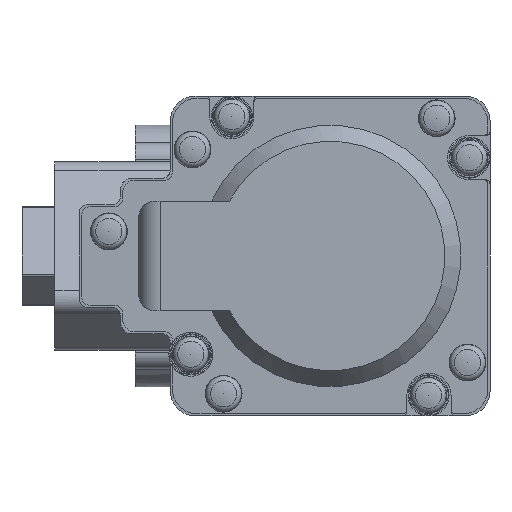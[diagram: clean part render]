
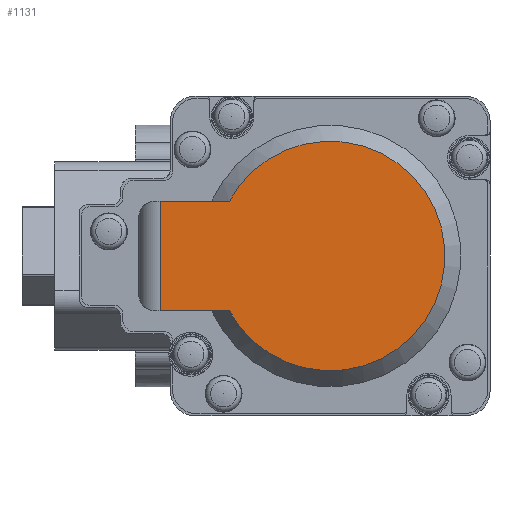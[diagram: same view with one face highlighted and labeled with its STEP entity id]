
A CAD part, left-side view. The second image highlights one B-rep face of the part: STEP entity #1131.
In plain terms, the highlighted planar face has unit normal (-1, 0, 0).
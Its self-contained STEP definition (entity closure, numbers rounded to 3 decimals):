
#1131 = ADVANCED_FACE( '', ( #2650 ), #2651, .F. );
#2650 = FACE_OUTER_BOUND( '', #4729, .T. );
#2651 = PLANE( '', #4730 );
#4729 = EDGE_LOOP( '', ( #8200, #8201, #8202, #8203 ) );
#4730 = AXIS2_PLACEMENT_3D( '', #8204, #8205, #8206 );
#8200 = ORIENTED_EDGE( '', *, *, #12321, .F. );
#8201 = ORIENTED_EDGE( '', *, *, #12322, .F. );
#8202 = ORIENTED_EDGE( '', *, *, #12323, .F. );
#8203 = ORIENTED_EDGE( '', *, *, #12292, .T. );
#8204 = CARTESIAN_POINT( '', ( -95., 20.75, 15. ) );
#8205 = DIRECTION( '', ( 1., 0., 0. ) );
#8206 = DIRECTION( '', ( 0., 0., -1. ) );
#12292 = EDGE_CURVE( '', #15061, #15062, #15063, .T. );
#12321 = EDGE_CURVE( '', #15099, #15062, #15100, .T. );
#12322 = EDGE_CURVE( '', #15101, #15099, #15102, .T. );
#12323 = EDGE_CURVE( '', #15061, #15101, #15103, .T. );
#15061 = VERTEX_POINT( '', #18713 );
#15062 = VERTEX_POINT( '', #18714 );
#15063 = LINE( '', #18715, #18716 );
#15099 = VERTEX_POINT( '', #18782 );
#15100 = LINE( '', #18783, #18784 );
#15101 = VERTEX_POINT( '', #18785 );
#15102 = CIRCLE( '', #18786, 14. );
#15103 = LINE( '', #18787, #18788 );
#18713 = CARTESIAN_POINT( '', ( -95., 20.75, 6.7 ) );
#18714 = CARTESIAN_POINT( '', ( -95., 20.75, -6.7 ) );
#18715 = CARTESIAN_POINT( '', ( -95., 20.75, 15. ) );
#18716 = VECTOR( '', #21639, 1000. );
#18782 = CARTESIAN_POINT( '', ( -95., 12.293, -6.7 ) );
#18783 = CARTESIAN_POINT( '', ( -95., 11.065, -6.7 ) );
#18784 = VECTOR( '', #21665, 1000. );
#18785 = CARTESIAN_POINT( '', ( -95., 12.293, 6.7 ) );
#18786 = AXIS2_PLACEMENT_3D( '', #21666, #21667, #21668 );
#18787 = CARTESIAN_POINT( '', ( -95., 21.35, 6.7 ) );
#18788 = VECTOR( '', #21669, 1000. );
#21639 = DIRECTION( '', ( 0., 0., -1. ) );
#21665 = DIRECTION( '', ( 0., 1., 0. ) );
#21666 = CARTESIAN_POINT( '', ( -95., 0., 0. ) );
#21667 = DIRECTION( '', ( 1., 0., 0. ) );
#21668 = DIRECTION( '', ( 0., 0., -1. ) );
#21669 = DIRECTION( '', ( 0., -1., 0. ) );
